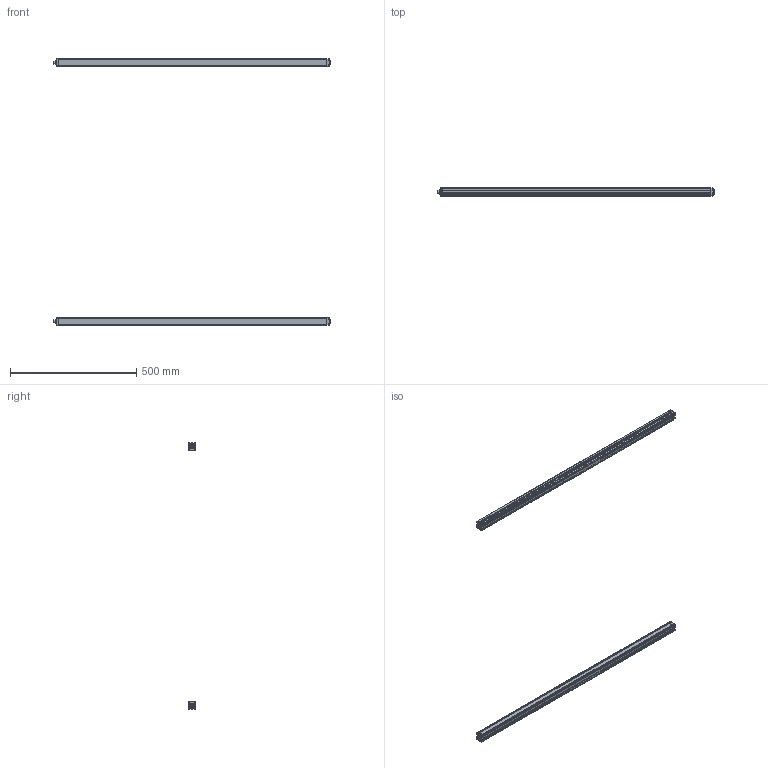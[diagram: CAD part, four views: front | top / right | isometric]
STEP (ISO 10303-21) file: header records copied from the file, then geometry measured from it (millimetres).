
FILE_DESCRIPTION(/* description */ ('CAx-IF Rec.Pracs.---Representation and Presentation of Product Manufacturing Information (PMI)---4.0---2014-10-13','CAx-IF Rec.Pracs.---3D Tessellated Geometry---0.4---2014-09-14','2;1'),/* implementation_level */ '4;1');
FILE_NAME(/* name */ 'THS10-104',/* time_stamp */ '2024-06-14T16:33:01+08:00',/* author */ (''),/* organization */ (' '),/* preprocessor_version */ 'ST-DEVELOPER v16.7',/* originating_system */ $,/* authorisation */ $);
FILE_SCHEMA (('AP242_MANAGED_MODEL_BASED_3D_ENGINEERING_MIM_LF { 1 0 10303 442 20130219 1 4 }'));
Length unit declared in the file: millimetre
Products named in the file (12): THS10-104; THS10-100; 11; 101; 102; 13; 12; ASM0002_ASM; 14; 16
Assembly tree (18 placements, depth 4):
  THS10-104
    THS10-100
      11
      101
      102
      13
      12
      ASM0002_ASM
        14
        16
    THS10-100
      11
      101
      102
      13
      12
      ASM0002_ASM
        14
        16
Bounding box: 1097 x 30.3 x 1058.6 mm (x, y, z)
Volume: 669566.2 mm3; surface area: 724771.7 mm2
Topology: 10 solids, 14 shells, 1080 faces, 3010 edges, 1986 vertices
Faces by surface type: plane 764, cylinder 288, cone 28
Entity records: 18706 total; most frequent: CARTESIAN_POINT 3396, DIRECTION 3125, ORIENTED_EDGE 3006, EDGE_CURVE 1505, LINE 1173, VECTOR 1173, AXIS2_PLACEMENT_3D 1073, VERTEX_POINT 993
